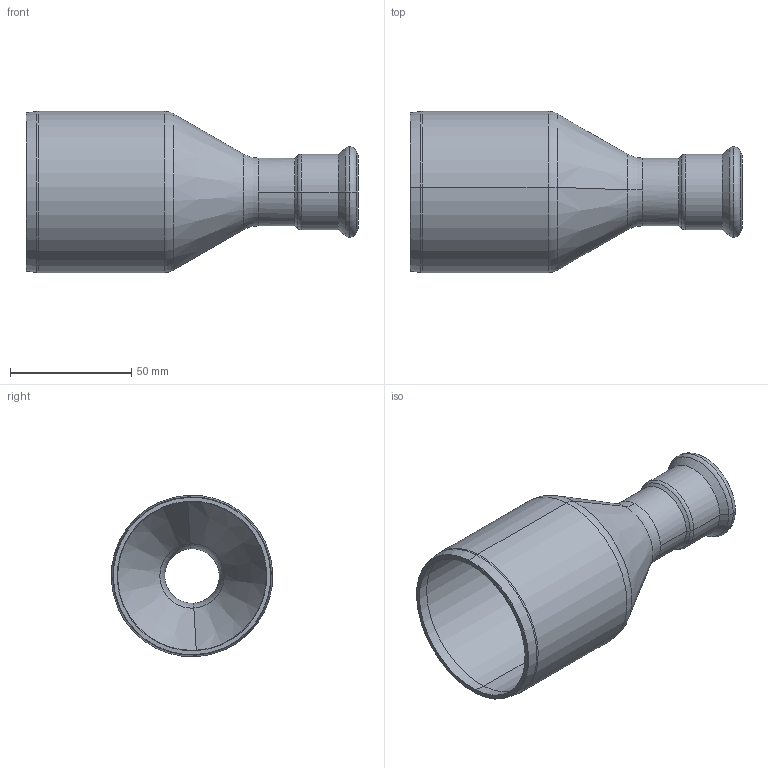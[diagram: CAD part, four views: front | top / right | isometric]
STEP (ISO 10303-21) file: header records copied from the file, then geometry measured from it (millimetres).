
FILE_DESCRIPTION(('CoCreate Modeling STEP Export'),'2;1');
FILE_NAME('C1407 67x28.stp','2014-10-23T14:48:08',(''),(''),'CoCreate Modeling STEP processor for AP214 (Solid Model)','CoCreate Modeling 17.00A 17-Jun-2010 (C) Parametric Technology GmbH','');
FILE_SCHEMA(('AUTOMOTIVE_DESIGN { 1 0 10303 214 1 1 1 1 }'));
Length unit declared in the file: millimetre
Products named in the file (2): Verloop_67x28mm
Assembly tree (1 placements, depth 2):
  Verloop_67x28mm
    Verloop_67x28mm
Bounding box: 137.02 x 66.59 x 66.59 mm (x, y, z)
Volume: 42070.7 mm3; surface area: 43926.3 mm2
Topology: 1 solids, 1 shells, 69 faces, 140 edges, 74 vertices
Faces by surface type: cone 26, torus 22, cylinder 18, plane 3
Entity records: 1475 total; most frequent: ORIENTED_EDGE 280, DIRECTION 234, CARTESIAN_POINT 213, EDGE_CURVE 140, AXIS2_PLACEMENT_3D 95, VERTEX_POINT 74, EDGE_LOOP 72, FACE_OUTER_BOUND 69
